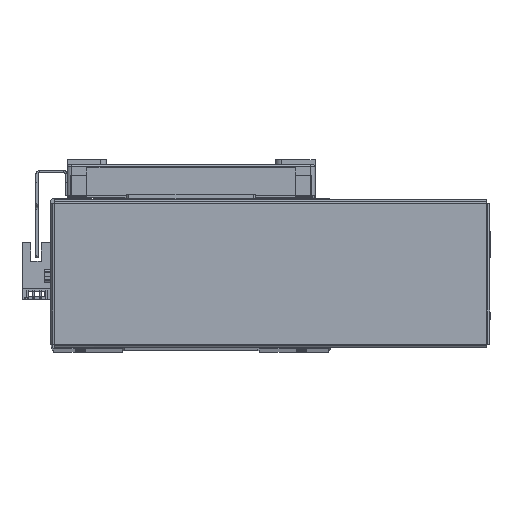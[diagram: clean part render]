
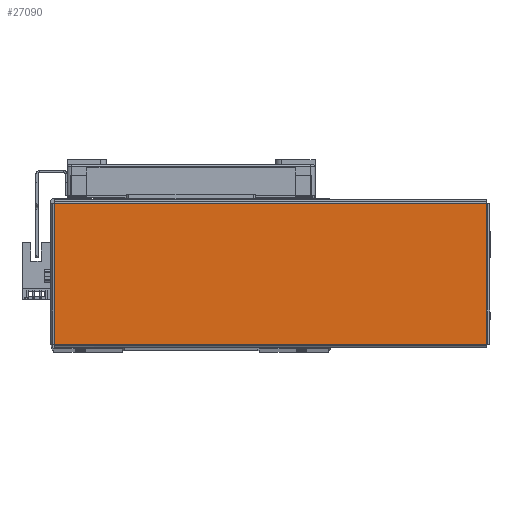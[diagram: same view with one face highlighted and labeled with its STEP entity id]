
A CAD part, top view. The second image highlights one B-rep face of the part: STEP entity #27090.
In plain terms, the highlighted planar face has unit normal (0, 0, 1) as drawn and (0, -1, 0) by its records, which use the part's own axes.
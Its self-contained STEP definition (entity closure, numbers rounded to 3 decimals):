
#5349 = ORIENTED_EDGE ( 'NONE', *, *, #50108, .T. ) ;
#5365 = ORIENTED_EDGE ( 'NONE', *, *, #50098, .T. ) ;
#5370 = ORIENTED_EDGE ( 'NONE', *, *, #50114, .T. ) ;
#5394 = ORIENTED_EDGE ( 'NONE', *, *, #50128, .T. ) ;
#5590 = VERTEX_POINT ( 'NONE', #58866 ) ;
#5708 = VERTEX_POINT ( 'NONE', #58911 ) ;
#5714 = VERTEX_POINT ( 'NONE', #58874 ) ;
#5715 = VERTEX_POINT ( 'NONE', #58890 ) ;
#6380 = AXIS2_PLACEMENT_3D ( 'NONE', #53598, #53627, #53648 ) ;
#18654 = FACE_OUTER_BOUND ( 'NONE', #61047, .T. ) ;
#27090 = ADVANCED_FACE ( 'NONE', ( #18654 ), #53612, .F. ) ;
#27247 = DIRECTION ( 'NONE',  ( -1., 0., 0. ) ) ;
#27303 = CARTESIAN_POINT ( 'NONE',  ( 103.793, -1., 33.763 ) ) ;
#27336 = CARTESIAN_POINT ( 'NONE',  ( 103.763, -1., -33.793 ) ) ;
#27341 = DIRECTION ( 'NONE',  ( 0., 0., 1. ) ) ;
#27371 = CARTESIAN_POINT ( 'NONE',  ( -103.763, -1., 33.793 ) ) ;
#27393 = DIRECTION ( 'NONE',  ( 0., 0., -1. ) ) ;
#27441 = DIRECTION ( 'NONE',  ( 1., 0., 0. ) ) ;
#27486 = CARTESIAN_POINT ( 'NONE',  ( -103.793, -1., -33.763 ) ) ;
#28136 = LINE ( 'NONE', #27336, #28155 ) ;
#28149 = LINE ( 'NONE', #27303, #28177 ) ;
#28155 = VECTOR ( 'NONE', #27341, 1000. ) ;
#28177 = VECTOR ( 'NONE', #27247, 1000. ) ;
#28188 = LINE ( 'NONE', #27371, #28191 ) ;
#28191 = VECTOR ( 'NONE', #27393, 1000. ) ;
#28236 = LINE ( 'NONE', #27486, #28247 ) ;
#28247 = VECTOR ( 'NONE', #27441, 1000. ) ;
#50098 = EDGE_CURVE ( 'NONE', #5714, #5715, #28149, .T. ) ;
#50108 = EDGE_CURVE ( 'NONE', #5715, #5590, #28188, .T. ) ;
#50114 = EDGE_CURVE ( 'NONE', #5708, #5714, #28136, .T. ) ;
#50128 = EDGE_CURVE ( 'NONE', #5590, #5708, #28236, .T. ) ;
#53598 = CARTESIAN_POINT ( 'NONE',  ( 0., -1., 0. ) ) ;
#53612 = PLANE ( 'NONE',  #6380 ) ;
#53627 = DIRECTION ( 'NONE',  ( 0., 1., 0. ) ) ;
#53648 = DIRECTION ( 'NONE',  ( 0., 0., 1. ) ) ;
#58866 = CARTESIAN_POINT ( 'NONE',  ( -103.763, -1., -33.763 ) ) ;
#58874 = CARTESIAN_POINT ( 'NONE',  ( 103.763, -1., 33.763 ) ) ;
#58890 = CARTESIAN_POINT ( 'NONE',  ( -103.763, -1., 33.763 ) ) ;
#58911 = CARTESIAN_POINT ( 'NONE',  ( 103.763, -1., -33.763 ) ) ;
#61047 = EDGE_LOOP ( 'NONE', ( #5365, #5349, #5394, #5370 ) ) ;
